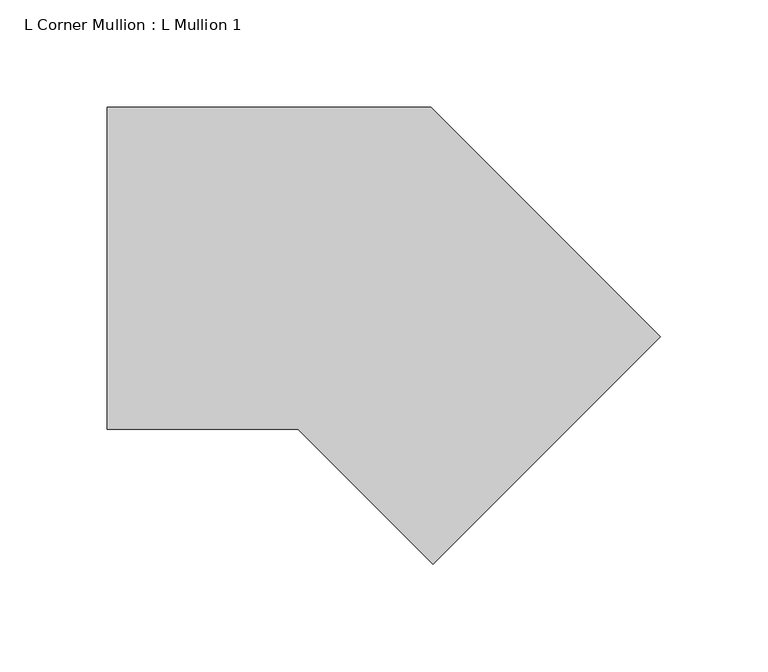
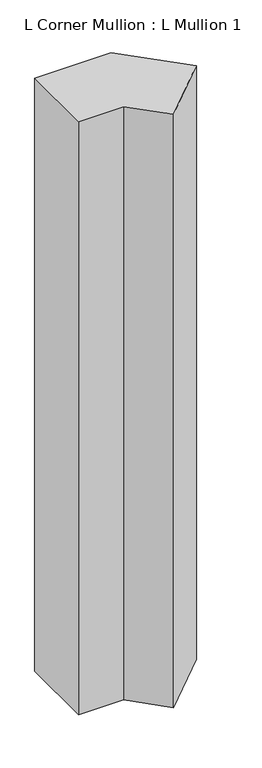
"""IFC4 building model written with IfcOpenShell, lengths in millimetres: member geometry, L Corner Mullion : L Mullion 1."""

from ifc_helpers import new_model, si_unit, frame, origin, place, context, project, spatial, polyline, outline, extrude, source, transform, mapped, element, save


def l_corner_mullion_l_mullion_1_5503049e(model_context):
    return source(origin(), model_context, "Body", "SweptSolid", [
        extrude(outline(polyline([(20.636039, -164.8858223), (-42.2497834, -102.0), (-131.1837662, -102.0), (-131.1837662, 48.0), (19.882251, 48.0), (126.7020561, -58.8198052), (20.636039, -164.8858223)])), frame((0.0, 0.0, -1240.0), z_axis=(0.0, 0.0, 1.0), x_axis=(1.0, 0.0, 0.0)), (0.0, 0.0, 1.0), 1240.0),
    ])


if __name__ == "__main__":
    model = new_model("IFC4")
    model_context = context("Model", 3, world=origin())
    ifc_project = project(units=[si_unit("LENGTHUNIT", "METRE", prefix="MILLI")], contexts=[model_context])
    site = spatial("IfcSite", under=ifc_project)
    building = spatial("IfcBuilding", under=site)
    placement = place(None, origin())
    l_corner_mullion_l_mullion_1_shape = l_corner_mullion_l_mullion_1_5503049e(model_context)
    element("IfcMember", 1, ObjectType="L Corner Mullion : L Mullion 1", at=placement, inside=building, context=model_context, shape_type="MappedRepresentation", body=[
        mapped(l_corner_mullion_l_mullion_1_shape, transform((0.0, 0.0, 0.0), x_axis=(1.0, 0.0, 0.0), y_axis=(0.0, 1.0, 0.0), z_axis=(0.0, 0.0, 1.0))),
    ])
    save(model, "model.ifc")
